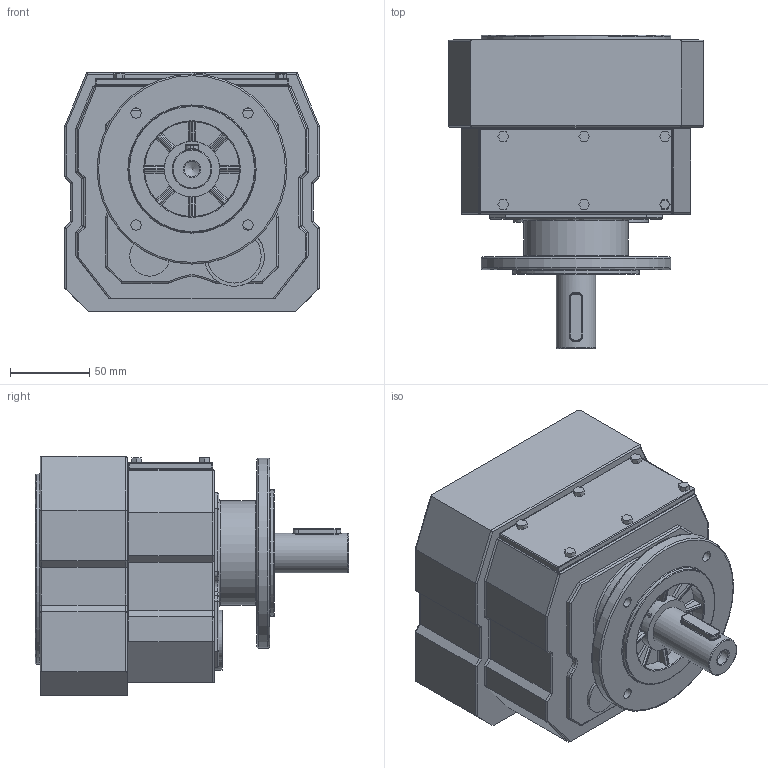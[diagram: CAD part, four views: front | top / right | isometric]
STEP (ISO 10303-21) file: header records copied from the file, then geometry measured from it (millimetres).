
FILE_DESCRIPTION((''),'2;1');
FILE_NAME('D:\PAWEŁ\ZLECENIA\2011 DualSystem\Przekładnie DR\DR30\STEP\DRF30_fi 120.stp','2012-06-11T11:52:25',('admin'),(''),'Autodesk Inventor 2009','Autodesk Inventor 2009','');
FILE_SCHEMA(('AUTOMOTIVE_DESIGN { 1 0 10303 214 1 1 1 1 }'));
Length unit declared in the file: millimetre
Products named in the file (1): DRF30_fi 120
Bounding box: 161 x 198 x 151 mm (x, y, z)
Volume: 2576369.6 mm3; surface area: 157106.2 mm2
Topology: 2 solids, 2 shells, 372 faces, 909 edges, 545 vertices
Faces by surface type: plane 165, cylinder 155, bspline 19, torus 19, sphere 14
Full cylindrical faces by diameter (mm): 25 x1, 25.333 x1, 34 x1, 35 x1, 38 x1, 60 x1, 66 x1, 80 x2, 120 x2
Entity records: 11912 total; most frequent: CARTESIAN_POINT 3198, DIRECTION 1811, ORIENTED_EDGE 1728, EDGE_CURVE 864, AXIS2_PLACEMENT_3D 637, VECTOR 537, LINE 537, VERTEX_POINT 536
